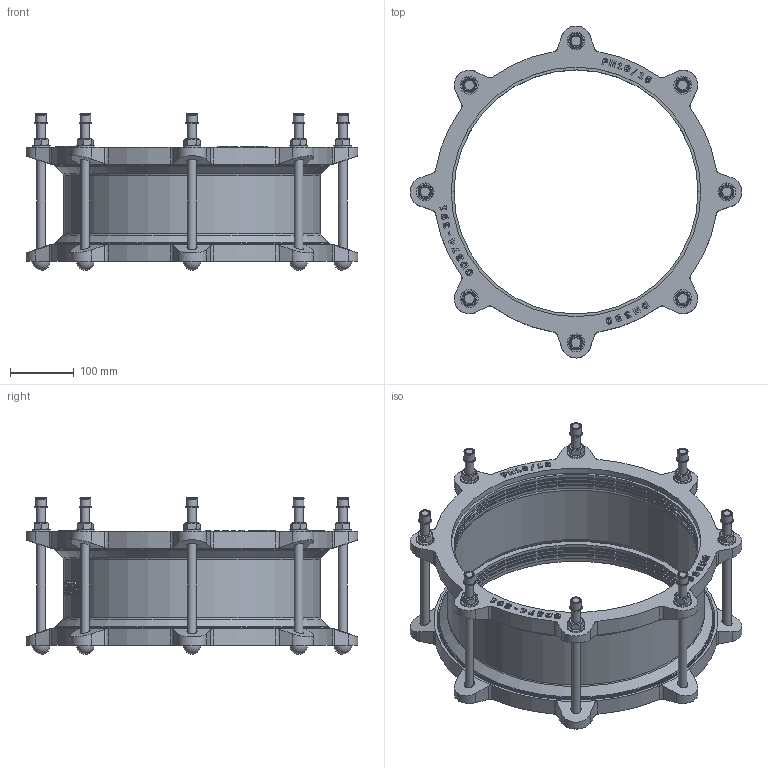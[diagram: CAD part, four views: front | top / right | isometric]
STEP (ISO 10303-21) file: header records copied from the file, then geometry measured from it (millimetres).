
FILE_DESCRIPTION(('STEP AP203'), '1');
FILE_NAME('Cîåäèíèòåëüíàÿ ìóôòà äëÿ æåñòêèõ òðóá', '', ('UNSPECIFIED'), ('UNSPECIFIED'), 'C3D Converter', 'C3D Toolkit', '');
FILE_SCHEMA(('CONFIG_CONTROL_DESIGN'));
Length unit declared in the file: millimetre
Assembly tree (37 placements, depth 2):
  (unnamed)
    (unnamed)
    (unnamed)  x8
    (unnamed)  x8
    (unnamed)  x8
    (unnamed)  x8
    (unnamed)
    (unnamed)
    (unnamed)  x2
Bounding box: 520 x 520 x 245.4 mm (x, y, z)
Volume: 4095103.7 mm3; surface area: 1149082.2 mm2
Topology: 41 solids, 41 shells, 1014 faces, 2516 edges, 1648 vertices
Faces by surface type: plane 385, extrusion 360, cylinder 173, cone 62, torus 26, sphere 8
Full cylindrical faces by diameter (mm): 14 x24, 15 x8, 16 x16, 16.8 x8, 19.6 x8, 23.29 x1, 28 x8, 382.5 x8, 386.75 x6, 391 x3, 397 x2, 403 x3, 430 x2, 433 x4
Entity records: 37272 total; most frequent: CARTESIAN_POINT 13739, ORIENTED_EDGE 4036, DIRECTION 2662, EDGE_CURVE 2018, VERTEX_POINT 1374, VECTOR 1298, B_SPLINE_CURVE_WITH_KNOTS 1188, EDGE_LOOP 954
